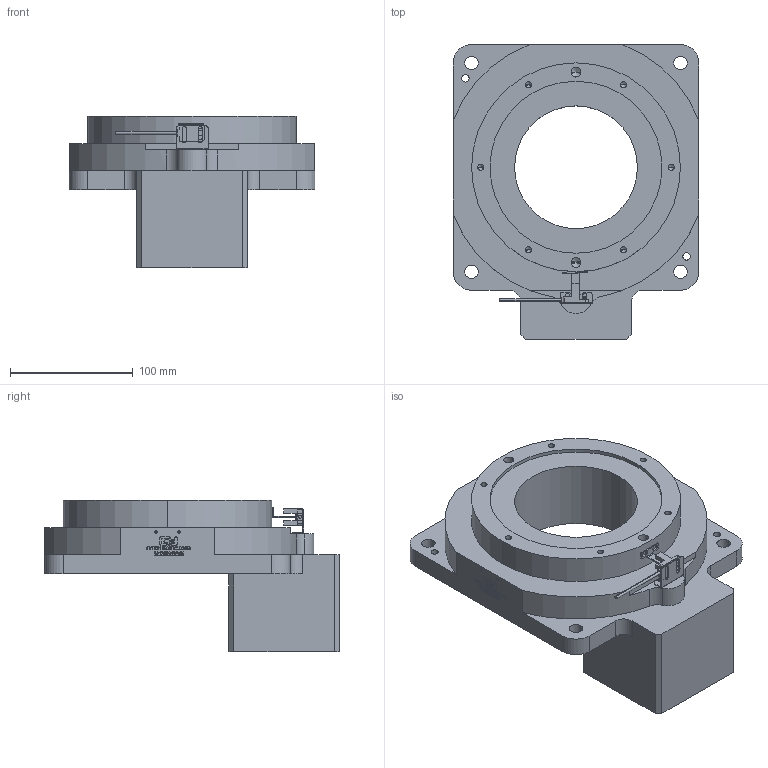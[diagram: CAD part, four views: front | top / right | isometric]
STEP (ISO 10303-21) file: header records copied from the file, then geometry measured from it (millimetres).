
FILE_DESCRIPTION (( 'STEP AP214' ), '1' );
FILE_NAME ('GT200-C-18-19-70-90-M6.STEP', '2024-07-04T05:03:00', ( '' ), ( '' ), 'SwSTEP 2.0', 'SolidWorks 2021', '' );
FILE_SCHEMA (( 'AUTOMOTIVE_DESIGN' ));
Length unit declared in the file: millimetre
Products named in the file (1): GT200-C-18-19-70-90-M6
Bounding box: 200 x 240 x 123.5 mm (x, y, z)
Volume: 1895541.2 mm3; surface area: 167828.8 mm2
Topology: 4 solids, 6 shells, 770 faces, 2090 edges, 1359 vertices
Faces by surface type: plane 549, cylinder 115, bspline 66, cone 40
Entity records: 27484 total; most frequent: CARTESIAN_POINT 5482, ORIENTED_EDGE 4100, DIRECTION 3517, EDGE_CURVE 2050, LINE 1641, VECTOR 1641, VERTEX_POINT 1359, AXIS2_PLACEMENT_3D 938
